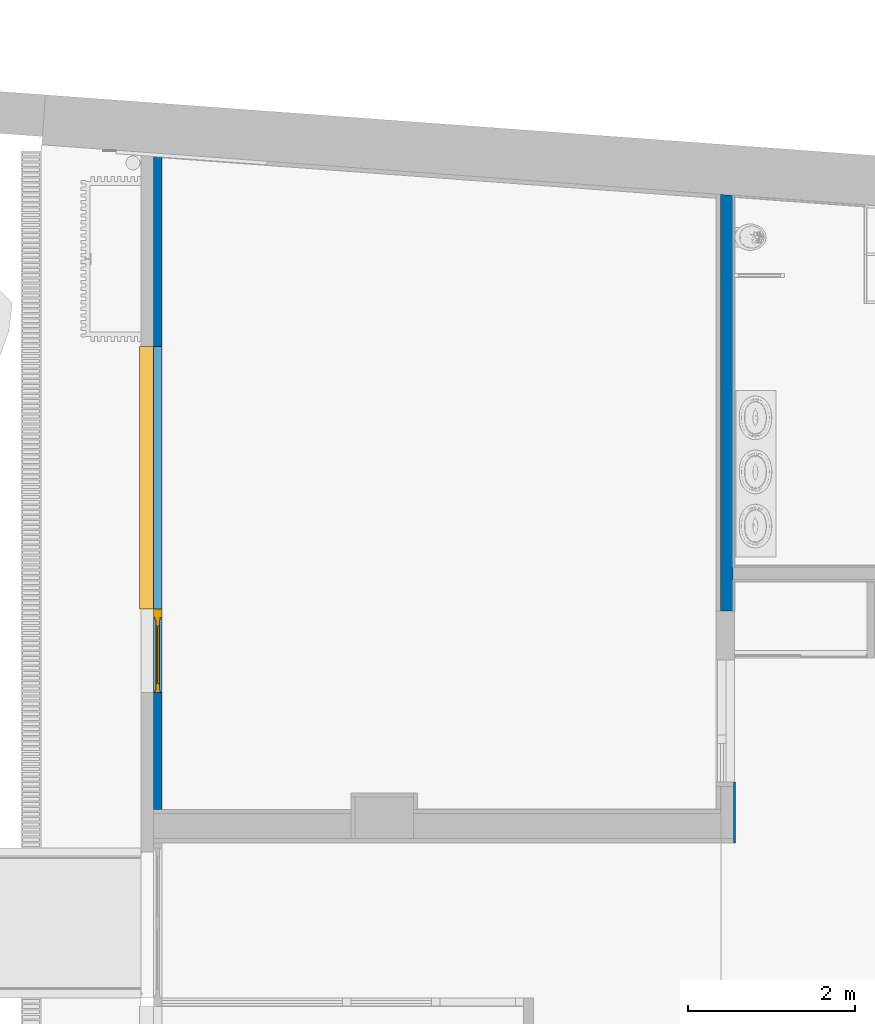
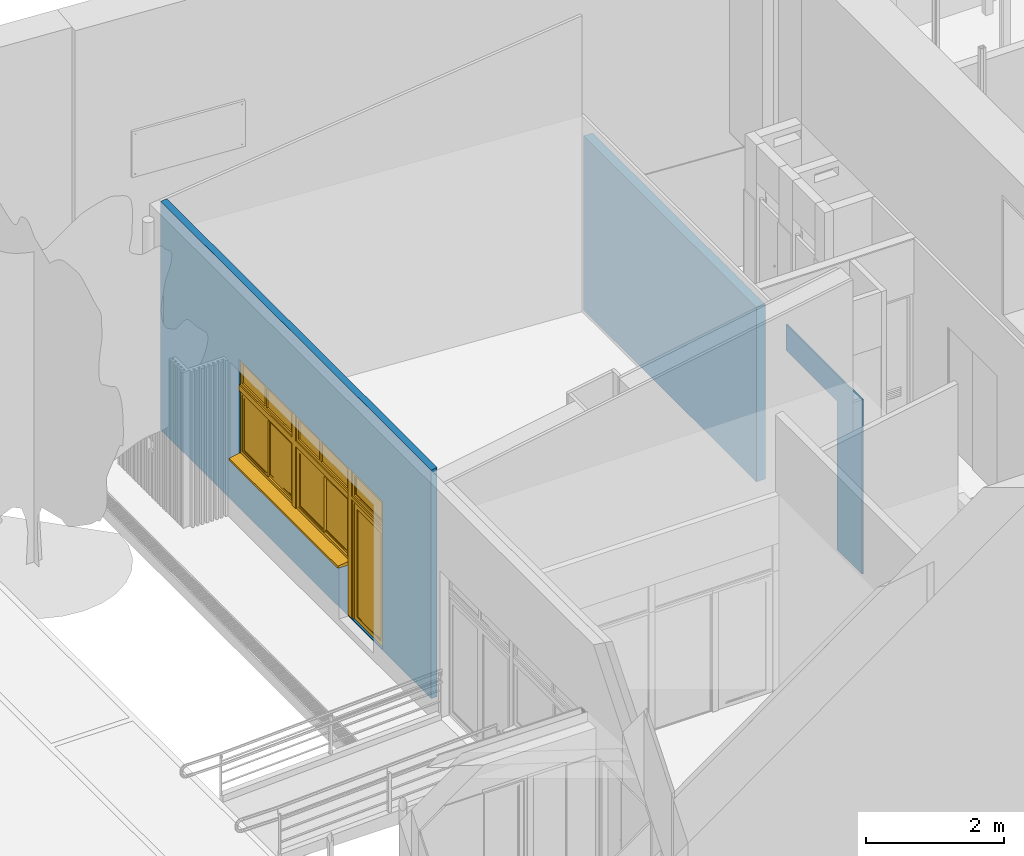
# One storey, part 37 of 75: 3 walls, 1 door, 1 window, 3 openings.
"""IFC2X3 building model written with IfcOpenShell, lengths in metres."""

from ifc_helpers import new_model, entity, si_unit, converted_unit, derived_unit, direction, frame, frame_2d, origin, origin_2d_with_axis, place, context, subcontext, project, spatial, polyline, circle_curve, parameter, trimmed, segment, composite_curve, rectangle, outline, extrude, clip, bounded_halfspace, source, transform, mapped, material, material_list, layer, layer_set, layer_usage, type_object, type_shapes, element, fill, save


model = new_model("IFC2X3")

# Units and contexts
model_context = context("Model", 3, precision=1e-05, world=origin(), true_north=direction((6.12303176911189e-17, 1.0)))
body_context = subcontext(model_context, "Body", "Model", "MODEL_VIEW")
ifc_project = project(units=[si_unit("LENGTHUNIT", "METRE"), si_unit("AREAUNIT", "SQUARE_METRE"), si_unit("VOLUMEUNIT", "CUBIC_METRE"), converted_unit("PLANEANGLEUNIT", "DEGREE", entity("IfcRatioMeasure", 0.0174532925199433), si_unit("PLANEANGLEUNIT", "RADIAN"), dimensions=[0, 0, 0, 0, 0, 0, 0]), si_unit("MASSUNIT", "GRAM", prefix="KILO"), derived_unit("MASSDENSITYUNIT", [(si_unit("MASSUNIT", "GRAM", prefix="KILO"), 1), (si_unit("LENGTHUNIT", "METRE"), -3)]), derived_unit("MOMENTOFINERTIAUNIT", [(si_unit("LENGTHUNIT", "METRE"), 4)]), si_unit("TIMEUNIT", "SECOND"), si_unit("FREQUENCYUNIT", "HERTZ"), si_unit("THERMODYNAMICTEMPERATUREUNIT", "DEGREE_CELSIUS"), derived_unit("THERMALTRANSMITTANCEUNIT", [(si_unit("MASSUNIT", "GRAM", prefix="KILO"), 1), (si_unit("THERMODYNAMICTEMPERATUREUNIT", "KELVIN"), -1), (si_unit("TIMEUNIT", "SECOND"), -3)]), derived_unit("VOLUMETRICFLOWRATEUNIT", [(si_unit("LENGTHUNIT", "METRE"), 3), (si_unit("TIMEUNIT", "SECOND"), -1)]), si_unit("ELECTRICCURRENTUNIT", "AMPERE"), si_unit("ELECTRICVOLTAGEUNIT", "VOLT"), si_unit("POWERUNIT", "WATT"), si_unit("FORCEUNIT", "NEWTON", prefix="KILO"), si_unit("ILLUMINANCEUNIT", "LUX"), si_unit("LUMINOUSFLUXUNIT", "LUMEN"), si_unit("LUMINOUSINTENSITYUNIT", "CANDELA"), derived_unit("USERDEFINED", [(si_unit("MASSUNIT", "GRAM", prefix="KILO"), -1), (si_unit("LENGTHUNIT", "METRE"), -2), (si_unit("TIMEUNIT", "SECOND"), 3), (si_unit("LUMINOUSFLUXUNIT", "LUMEN"), 1)]), derived_unit("LINEARVELOCITYUNIT", [(si_unit("LENGTHUNIT", "METRE"), 1), (si_unit("TIMEUNIT", "SECOND"), -1)]), si_unit("PRESSUREUNIT", "PASCAL"), derived_unit("USERDEFINED", [(si_unit("LENGTHUNIT", "METRE"), -2), (si_unit("MASSUNIT", "GRAM", prefix="KILO"), 1), (si_unit("TIMEUNIT", "SECOND"), -2)]), derived_unit("LINEARFORCEUNIT", [(si_unit("MASSUNIT", "GRAM", prefix="KILO"), 1), (si_unit("LENGTHUNIT", "METRE"), 1), (si_unit("TIMEUNIT", "SECOND"), -2), (si_unit("LENGTHUNIT", "METRE"), -1)]), derived_unit("PLANARFORCEUNIT", [(si_unit("MASSUNIT", "GRAM", prefix="KILO"), 1), (si_unit("LENGTHUNIT", "METRE"), 1), (si_unit("TIMEUNIT", "SECOND"), -2), (si_unit("LENGTHUNIT", "METRE"), -2)])], contexts=[model_context])

# Site, building, storey
site_placement = place(None, origin())
site = spatial("IfcSite", under=ifc_project, at=site_placement, Name="Superficie", CompositionType="ELEMENT")
building_placement = place(site_placement, origin())
building = spatial("IfcBuilding", under=site, at=building_placement, Name="Telegestiones", CompositionType="ELEMENT")
storey_placement = place(building_placement, origin())
storey = spatial("IfcBuildingStorey", under=building, at=storey_placement, Name="Nivel 0_NPT", CompositionType="ELEMENT", Elevation=0.0)

# Wall
ifc_material_1 = material(Name="Muro por defecto")
ifc_layer_1 = layer(ifc_material_1, 0.15)
ifc_layer_set_1 = layer_set([ifc_layer_1], Name="Muro básico:ARQ-MU-IN-15-Gen")
ifc_layer_usage_1 = layer_usage(ifc_layer_set_1, "AXIS2", "POSITIVE", -0.075)
wall_type_1 = type_object("IfcWallType", Name="Muro básico:ARQ-MU-IN-15-Gen", PredefinedType="STANDARD", material=ifc_layer_set_1)
wall_1_placement = place(storey_placement, frame((2.54240672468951, 4.93458449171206, -0.0199999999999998), z_axis=(0.0, 0.0, 1.0), x_axis=(0.0, 1.0, 0.0)))
element("IfcWallStandardCase", 1, at=wall_1_placement, inside=storey, type_object=wall_type_1, material=ifc_layer_usage_1, Name="Muro básico:ARQ-MU-IN-15-Gen", ObjectType="Muro básico:ARQ-MU-IN-15-Gen", context=body_context, shape_type="SweptSolid", body=[
    extrude(outline(polyline([(4.98898183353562, -0.0750000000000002), (4.9999626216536, 0.0749999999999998), (0.0, 0.0749999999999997), (0.0, -0.0750000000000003), (4.98898183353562, -0.0750000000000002)])), origin(), (0.0, 0.0, 1.0), 3.08),
])

# Wall, openings, window, door
ifc_material_2 = material(Name="Placa yeso entera")
ifc_layer_2 = layer(ifc_material_2, 0.015)
ifc_layer_3 = layer(ifc_material_2, 0.015)
ifc_material_3 = material(Name="Estructura de Hierro Galvanizado")
ifc_layer_4 = layer(ifc_material_3, 0.07)
ifc_layer_set_2 = layer_set([ifc_layer_2, ifc_layer_3, ifc_layer_4], Name="Muro básico:ARQ-RE-IN-10-Ye-M6")
ifc_layer_usage_2 = layer_usage(ifc_layer_set_2, "AXIS2", "POSITIVE", -0.05)
wall_type_2 = type_object("IfcWallType", Name="Muro básico:ARQ-RE-IN-10-Ye-M6", PredefinedType="STANDARD", material=ifc_layer_set_2)
wall_2_placement = place(storey_placement, frame((-4.28518737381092, 2.55458449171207, -0.0199999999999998), z_axis=(0.0, 0.0, 1.0), x_axis=(0.0, 1.0, 0.0)))
wall_2 = element("IfcWallStandardCase", 2, at=wall_2_placement, inside=storey, type_object=wall_type_2, material=ifc_layer_usage_2, Name="Muro básico:ARQ-RE-IN-10-Ye-M6", ObjectType="Muro básico:ARQ-RE-IN-10-Ye-M6", context=body_context, shape_type="Clipping", body=[
    clip(extrude(outline(polyline([(0.0, -0.05), (7.82049392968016, -0.0500000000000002), (7.82781445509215, 0.0500000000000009), (0.0, 0.05), (0.0, -0.05)])), origin(), (0.0, 0.0, 1.0), 4.049), bounded_halfspace(frame((0.0, -0.0500000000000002, 4.049), z_axis=(0.0, 0.177152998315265, 0.984183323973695), x_axis=(-1.0, 0.0, 0.0)), False, frame((0.0, -0.0500000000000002, 4.049)), polyline([(0.0, 0.0), (7.82049392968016, 0.0), (7.82781445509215, 0.100000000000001), (0.0, 0.1), (0.0, 0.0)]))),
])
opening_1_placement = place(wall_2_placement, frame((2.40537892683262, -0.0500000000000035, 0.899999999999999)))
opening_1 = element("IfcOpeningElement", 3, at=opening_1_placement, cuts=wall_2, Name="ARQ-VE-EX-315x155-Al-A1:ARQ-VE-EX-315x165-Al-A1:1", ObjectType="Opening", context=body_context, shape_type="SweptSolid", body=[
    extrude(rectangle(XDim=1.72, YDim=3.15, at=frame_2d((0.86, 1.575), x_axis=(1.0, 0.0))), frame((0.0, 0.0, 0.0), z_axis=(0.0, 1.0, 0.0), x_axis=(0.0, 0.0, 1.0)), (0.0, 0.0, 1.0), 0.1),
])
opening_2_placement = place(wall_2_placement, frame((2.40537879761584, 0.0499999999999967, 0.0199999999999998)))
opening_2 = element("IfcOpeningElement", 4, at=opening_2_placement, cuts=wall_2, Name="ARQ-PU-EX-80X260-Alu-A2:ARQ-PU-EX-80X260-Alu-A2:1", ObjectType="Opening", context=body_context, shape_type="SweptSolid", body=[
    extrude(rectangle(XDim=2.59999999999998, YDim=0.999999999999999, at=frame_2d((1.29999999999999, 0.5), x_axis=(1.0, 0.0))), frame((0.0, 0.0, 0.0), z_axis=(0.0, -1.0, 0.0), x_axis=(0.0, 0.0, 1.0)), (0.0, 0.0, 1.0), 0.1),
])
ifc_material_4 = material(Name="Vidrio")
ifc_material_5 = material(Name="Aluminio")
ifc_material_6 = material(Name="Hormigón, prefabricado")
ifc_material_list_1 = material_list([ifc_material_4, ifc_material_4, ifc_material_4, ifc_material_4, ifc_material_5, ifc_material_5, ifc_material_5, ifc_material_5, ifc_material_5, ifc_material_5, ifc_material_5, ifc_material_5, ifc_material_5, ifc_material_6, ifc_material_4, ifc_material_4, ifc_material_4, ifc_material_4, ifc_material_5, ifc_material_5, ifc_material_5, ifc_material_5, ifc_material_5, ifc_material_5, ifc_material_5, ifc_material_5, ifc_material_5, ifc_material_5, ifc_material_5, ifc_material_5])
ifc_material_list_2 = material_list([ifc_material_4, ifc_material_4, ifc_material_4, ifc_material_4, ifc_material_5, ifc_material_5, ifc_material_5, ifc_material_5, ifc_material_5, ifc_material_5, ifc_material_5, ifc_material_5, ifc_material_5, ifc_material_6, ifc_material_4, ifc_material_4, ifc_material_4, ifc_material_4, ifc_material_5, ifc_material_5, ifc_material_5, ifc_material_5, ifc_material_5, ifc_material_5, ifc_material_5, ifc_material_5, ifc_material_5, ifc_material_5, ifc_material_5, ifc_material_5])
window_style = type_object("IfcWindowStyle", Name="ARQ-VE-EX-315x155-Al-A1:ARQ-VE-EX-315x165-Al-A1", ConstructionType="NOTDEFINED", OperationType="NOTDEFINED", ParameterTakesPrecedence=False, Sizeable=False, material=ifc_material_list_2)
shared_shape_1 = source(origin(), body_context, "Body", "SweptSolid", [
    extrude(rectangle(XDim=0.01, YDim=0.7425, at=origin_2d_with_axis()), frame((0.431250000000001, 0.05, 1.33000000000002), z_axis=(0.0, 0.0, 1.0), x_axis=(0.0, 1.0, 0.0)), (0.0, 0.0, 1.0), 0.329999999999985),
    extrude(rectangle(XDim=0.01, YDim=0.5925, at=origin_2d_with_axis()), frame((1.16875, 0.05, 1.33000000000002), z_axis=(0.0, 0.0, 1.0), x_axis=(0.0, 1.0, 0.0)), (0.0, 0.0, 1.0), 0.329999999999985),
    extrude(rectangle(XDim=0.01, YDim=0.642500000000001, at=origin_2d_with_axis()), frame((2.76875, 0.05, 1.33000000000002), z_axis=(0.0, 0.0, 1.0), x_axis=(0.0, 1.0, 0.0)), (0.0, 0.0, 1.0), 0.329999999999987),
    extrude(rectangle(XDim=0.01, YDim=0.6925, at=frame_2d((0.0, 8.32667268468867e-17), x_axis=(1.0, 0.0))), frame((2.03125, 0.05, 1.33000000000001), z_axis=(0.0, 0.0, 1.0), x_axis=(0.0, 1.0, 0.0)), (0.0, 0.0, 1.0), 0.329999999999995),
    extrude(outline(polyline([(-0.174999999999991, -0.38125), (0.174999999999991, -0.38125), (0.174999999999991, 0.38125), (-0.174999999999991, 0.38125), (-0.174999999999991, -0.38125)]), holes=[polyline([(-0.164999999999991, -0.37125), (-0.164999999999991, 0.37125), (0.164999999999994, 0.37125), (0.164999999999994, -0.37125), (-0.164999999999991, -0.37125)])]), frame((0.431250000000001, 0.045, 1.49500000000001), z_axis=(0.0, 1.0, 0.0), x_axis=(0.0, 0.0, -1.0)), (0.0, 0.0, 1.0), 0.01),
    extrude(outline(polyline([(-0.30625, -0.174999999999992), (0.30625, -0.174999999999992), (0.30625, 0.174999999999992), (-0.30625, 0.174999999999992), (-0.30625, -0.174999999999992)]), holes=[polyline([(-0.29625, 0.164999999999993), (0.29625, 0.164999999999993), (0.29625, -0.164999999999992), (-0.29625, -0.164999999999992), (-0.29625, 0.164999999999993)])]), frame((1.16875, 0.045, 1.49500000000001), z_axis=(0.0, 1.0, 0.0), x_axis=(-1.0, 0.0, 0.0)), (0.0, 0.0, 1.0), 0.01),
    extrude(outline(polyline([(-0.35625, -0.174999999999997), (0.35625, -0.174999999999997), (0.35625, 0.174999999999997), (-0.35625, 0.174999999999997), (-0.35625, -0.174999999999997)]), holes=[polyline([(-0.34625, 0.164999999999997), (0.34625, 0.164999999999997), (0.34625, -0.164999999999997), (-0.34625, -0.164999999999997), (-0.34625, 0.164999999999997)])]), frame((2.03125, 0.045, 1.49500000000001), z_axis=(0.0, 1.0, 0.0), x_axis=(-1.0, 0.0, 0.0)), (0.0, 0.0, 1.0), 0.01),
    extrude(outline(polyline([(-0.174999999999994, -0.33125), (0.174999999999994, -0.33125), (0.174999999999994, 0.33125), (-0.174999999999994, 0.33125), (-0.174999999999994, -0.33125)]), holes=[polyline([(-0.164999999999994, -0.321250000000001), (-0.164999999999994, 0.32125), (0.164999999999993, 0.32125), (0.164999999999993, -0.321250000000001), (-0.164999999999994, -0.321250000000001)])]), frame((2.76875, 0.045, 1.49500000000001), z_axis=(0.0, 1.0, 0.0), x_axis=(0.0, 0.0, -1.0)), (0.0, 0.0, 1.0), 0.01),
    extrude(outline(polyline([(-0.7625, -0.224999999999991), (0.7625, -0.224999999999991), (0.7625, 0.224999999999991), (-0.7625, 0.224999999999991), (-0.7625, -0.224999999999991)]), holes=[polyline([(-0.0499999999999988, -0.174999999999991), (-0.7125, -0.174999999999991), (-0.7125, 0.174999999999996), (-0.0499999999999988, 0.174999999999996), (-0.0499999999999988, -0.174999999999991)]), polyline([(0.0, 0.174999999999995), (0.712500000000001, 0.174999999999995), (0.712500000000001, -0.174999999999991), (0.0, -0.174999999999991), (0.0, 0.174999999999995)])]), frame((2.3875, 0.02, 1.49500000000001), z_axis=(0.0, 1.0, 0.0), x_axis=(-1.0, 0.0, 0.0)), (0.0, 0.0, 1.0), 0.06),
    extrude(outline(polyline([(-0.550000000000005, -0.7625), (0.550000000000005, -0.7625), (0.550000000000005, 0.7625), (-0.550000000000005, 0.7625), (-0.550000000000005, -0.7625)]), holes=[polyline([(0.500000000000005, -0.7125), (-0.500000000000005, -0.7125), (-0.500000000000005, 0.712500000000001), (0.500000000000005, 0.712500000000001), (0.500000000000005, -0.7125)])]), frame((2.3875, 0.02, 0.620000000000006), z_axis=(0.0, 1.0, 0.0), x_axis=(0.0, 0.0, -1.0)), (0.0, 0.0, 1.0), 0.06),
    extrude(outline(polyline([(-0.550000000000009, -0.7625), (0.550000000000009, -0.7625), (0.550000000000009, 0.7625), (-0.550000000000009, 0.7625), (-0.550000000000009, -0.7625)]), holes=[polyline([(0.500000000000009, 0.7125), (0.500000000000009, -0.7125), (-0.500000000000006, -0.7125), (-0.500000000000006, 0.7125), (0.500000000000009, 0.7125)])]), frame((0.762500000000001, 0.02, 0.62000000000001), z_axis=(0.0, 1.0, 0.0), x_axis=(0.0, 0.0, -1.0)), (0.0, 0.0, 1.0), 0.06),
    extrude(outline(polyline([(-0.224999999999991, -0.7625), (0.224999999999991, -0.7625), (0.22499999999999, 0.7625), (-0.224999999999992, 0.7625), (-0.224999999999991, -0.7625)]), holes=[polyline([(0.174999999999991, -0.0999999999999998), (0.174999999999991, -0.712499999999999), (-0.174999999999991, -0.7125), (-0.174999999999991, -0.1), (0.174999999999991, -0.0999999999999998)]), polyline([(-0.174999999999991, -0.0500000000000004), (-0.174999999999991, 0.7125), (0.174999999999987, 0.7125), (0.174999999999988, -0.0500000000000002), (-0.174999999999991, -0.0500000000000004)])]), frame((0.762500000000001, 0.02, 1.49500000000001), z_axis=(0.0, 1.0, 0.0), x_axis=(0.0, 0.0, -1.0)), (0.0, 0.0, 1.0), 0.06),
    extrude(rectangle(XDim=0.1, YDim=0.1, at=origin_2d_with_axis()), frame((1.575, 0.05, 0.0700000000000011), z_axis=(0.0, 0.0, 1.0), x_axis=(0.0, 1.0, 0.0)), (0.0, 0.0, 1.0), 1.65),
    extrude(outline(composite_curve([segment(polyline([(0.105944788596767, -0.0448571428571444), (0.155944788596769, -0.0448571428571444)]), True, "CONTINUOUS"), segment(polyline([(0.155944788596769, -0.0448571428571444), (0.155944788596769, 0.0251428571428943)]), True, "CONTINUOUS"), segment(polyline([(0.155944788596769, 0.0251428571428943), (-0.0848619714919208, 0.0251428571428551)]), True, "CONTINUOUS"), segment(trimmed(circle_curve(frame_2d((-0.0948619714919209, 0.0251428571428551), x_axis=(1.0, 0.0)), 0.01), [parameter(180.000000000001)], [parameter(7.63333123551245e-13)], True, "PARAMETER"), False, "CONTINUOUS"), segment(polyline([(-0.104861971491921, 0.0251428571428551), (-0.114055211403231, 0.0251428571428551)]), True, "CONTINUOUS"), segment(polyline([(-0.114055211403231, 0.0251428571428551), (-0.114055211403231, -0.0108571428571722)]), True, "CONTINUOUS"), segment(polyline([(-0.114055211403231, -0.0108571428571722), (0.105944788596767, -0.0448571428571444)]), True, "CONTINUOUS")], self_intersect=False)), frame((0.0, 0.155944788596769, 0.0251428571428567), z_axis=(1.0, 0.0, 0.0), x_axis=(0.0, -1.0, 0.0)), (0.0, 0.0, 1.0), 3.15),
    extrude(rectangle(XDim=0.01, YDim=0.657500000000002, at=origin_2d_with_axis()), frame((2.73125, 0.06, 0.159999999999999), z_axis=(0.0, 0.0, 1.0), x_axis=(0.0, 1.0, 0.0)), (0.0, 0.0, 1.0), 0.92000000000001),
    extrude(rectangle(XDim=0.01, YDim=0.657500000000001, at=origin_2d_with_axis()), frame((1.10625, 0.06, 0.159999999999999), z_axis=(0.0, 0.0, 1.0), x_axis=(0.0, 1.0, 0.0)), (0.0, 0.0, 1.0), 0.920000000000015),
    extrude(rectangle(XDim=0.01, YDim=0.6375, at=origin_2d_with_axis()), frame((2.03375, 0.035, 0.160000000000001), z_axis=(0.0, 0.0, 1.0), x_axis=(0.0, 1.0, 0.0)), (0.0, 0.0, 1.0), 0.920000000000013),
    extrude(rectangle(XDim=0.01, YDim=0.6375, at=frame_2d((0.0, 8.32667268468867e-17), x_axis=(1.0, 0.0))), frame((0.40875, 0.035, 0.160000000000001), z_axis=(0.0, 0.0, 1.0), x_axis=(0.0, 1.0, 0.0)), (0.0, 0.0, 1.0), 0.920000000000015),
    extrude(outline(polyline([(-0.470000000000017, -0.338750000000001), (0.470000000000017, -0.338750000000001), (0.470000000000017, 0.338750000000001), (-0.470000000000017, 0.338750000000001), (-0.470000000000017, -0.338750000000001)]), holes=[polyline([(0.460000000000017, -0.328750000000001), (-0.460000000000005, -0.328750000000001), (-0.460000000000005, 0.328750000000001), (0.460000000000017, 0.328750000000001), (0.460000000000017, -0.328750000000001)])]), frame((2.73125, 0.05, 0.620000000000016), z_axis=(0.0, 1.0, 0.0), x_axis=(0.0, 0.0, -1.0)), (0.0, 0.0, 1.0), 0.02),
    extrude(outline(polyline([(-0.47000000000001, -0.338750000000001), (0.47000000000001, -0.338750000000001), (0.47000000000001, 0.338750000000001), (-0.47000000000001, 0.338750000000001), (-0.47000000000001, -0.338750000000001)]), holes=[polyline([(-0.460000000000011, -0.328750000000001), (-0.460000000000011, 0.328750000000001), (0.46000000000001, 0.328750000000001), (0.46000000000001, -0.328750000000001), (-0.460000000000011, -0.328750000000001)])]), frame((1.10625, 0.05, 0.620000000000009), z_axis=(0.0, 1.0, 0.0), x_axis=(0.0, 0.0, -1.0)), (0.0, 0.0, 1.0), 0.02),
    extrude(outline(polyline([(-0.32875, -0.470000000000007), (0.32875, -0.470000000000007), (0.32875, 0.470000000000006), (-0.32875, 0.470000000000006), (-0.32875, -0.470000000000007)]), holes=[polyline([(0.31875, 0.460000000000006), (0.31875, -0.460000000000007), (-0.31875, -0.460000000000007), (-0.31875, 0.460000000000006), (0.31875, 0.460000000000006)])]), frame((2.03375, 0.025, 0.620000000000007), z_axis=(0.0, 1.0, 0.0), x_axis=(1.0, 0.0, 0.0)), (0.0, 0.0, 1.0), 0.02),
    extrude(outline(polyline([(-0.470000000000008, -0.32875), (0.470000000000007, -0.32875), (0.470000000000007, 0.32875), (-0.470000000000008, 0.32875), (-0.470000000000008, -0.32875)]), holes=[polyline([(-0.460000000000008, -0.31875), (-0.460000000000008, 0.31875), (0.460000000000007, 0.31875), (0.460000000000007, -0.31875), (-0.460000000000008, -0.31875)])]), frame((0.40875, 0.025, 0.620000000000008), z_axis=(0.0, 1.0, 0.0), x_axis=(0.0, 0.0, -1.0)), (0.0, 0.0, 1.0), 0.02),
    extrude(outline(polyline([(-0.368750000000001, -0.500000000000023), (0.368750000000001, -0.500000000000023), (0.368750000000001, 0.500000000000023), (-0.368750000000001, 0.500000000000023), (-0.368750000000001, -0.500000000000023)]), holes=[polyline([(-0.338750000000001, -0.470000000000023), (-0.338750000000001, 0.470000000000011), (0.338750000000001, 0.470000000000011), (0.338750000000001, -0.470000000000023), (-0.338750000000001, -0.470000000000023)])]), frame((2.73125, 0.05, 0.620000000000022), z_axis=(0.0, 1.0, 0.0), x_axis=(-1.0, 0.0, 0.0)), (0.0, 0.0, 1.0), 0.025),
    extrude(outline(polyline([(-0.500000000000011, -0.368750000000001), (0.500000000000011, -0.368750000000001), (0.500000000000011, 0.368750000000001), (-0.500000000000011, 0.368750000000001), (-0.500000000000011, -0.368750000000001)]), holes=[polyline([(0.470000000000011, -0.338750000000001), (-0.470000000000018, -0.338750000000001), (-0.470000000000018, 0.33875), (0.470000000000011, 0.33875), (0.470000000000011, -0.338750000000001)])]), frame((1.10625, 0.05, 0.62000000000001), z_axis=(0.0, 1.0, 0.0), x_axis=(0.0, 0.0, -1.0)), (0.0, 0.0, 1.0), 0.025),
    extrude(outline(polyline([(-0.35875, -0.500000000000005), (0.35875, -0.500000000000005), (0.35875, 0.500000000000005), (-0.35875, 0.500000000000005), (-0.35875, -0.500000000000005)]), holes=[polyline([(-0.32875, -0.470000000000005), (-0.32875, 0.470000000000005), (0.32875, 0.470000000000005), (0.32875, -0.470000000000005), (-0.32875, -0.470000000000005)])]), frame((2.03375, 0.025, 0.620000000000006), z_axis=(0.0, 1.0, 0.0), x_axis=(-1.0, 0.0, 0.0)), (0.0, 0.0, 1.0), 0.025),
    extrude(outline(polyline([(-0.500000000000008, -0.35875), (0.500000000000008, -0.35875), (0.500000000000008, 0.35875), (-0.500000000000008, 0.35875), (-0.500000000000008, -0.35875)]), holes=[polyline([(0.470000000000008, -0.32875), (-0.470000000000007, -0.32875), (-0.470000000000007, 0.32875), (0.470000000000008, 0.32875), (0.470000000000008, -0.32875)])]), frame((0.40875, 0.025, 0.620000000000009), z_axis=(0.0, 1.0, 0.0), x_axis=(0.0, 0.0, -1.0)), (0.0, 0.0, 1.0), 0.025),
    extrude(rectangle(XDim=0.1, YDim=1.525, at=origin_2d_with_axis()), frame((0.762500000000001, 0.05, 1.17000000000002), z_axis=(0.0, 0.0, 1.0), x_axis=(0.0, 1.0, 0.0)), (0.0, 0.0, 1.0), 0.05),
    extrude(rectangle(XDim=0.1, YDim=1.525, at=origin_2d_with_axis()), frame((2.3875, 0.05, 1.17000000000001), z_axis=(0.0, 0.0, 1.0), x_axis=(0.0, 1.0, 0.0)), (0.0, 0.0, 1.0), 0.05),
    extrude(rectangle(XDim=0.1, YDim=1.525, at=origin_2d_with_axis()), frame((0.762500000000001, 0.05, 1.22000000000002), z_axis=(0.0, 0.0, 1.0), x_axis=(0.0, 1.0, 0.0)), (0.0, 0.0, 1.0), 0.0499999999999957),
    extrude(rectangle(XDim=0.1, YDim=1.525, at=origin_2d_with_axis()), frame((2.3875, 0.05, 1.22000000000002), z_axis=(0.0, 0.0, 1.0), x_axis=(0.0, 1.0, 0.0)), (0.0, 0.0, 1.0), 0.05),
])
type_shapes(window_style, [shared_shape_1])
window_placement = place(opening_1_placement, origin())
window = element("IfcWindow", 5, at=window_placement, inside=storey, type_object=window_style, material=ifc_material_list_1, Name="ARQ-VE-EX-315x155-Al-A1:ARQ-VE-EX-315x165-Al-A1", ObjectType="ARQ-VE-EX-315x155-Al-A1:ARQ-VE-EX-315x165-Al-A1", OverallHeight=1.72, OverallWidth=3.15, context=body_context, shape_type="MappedRepresentation", body=[
    mapped(shared_shape_1, transform((0.0, 0.0, 0.0), scale=1.0)),
])
fill(opening_1, window)
ifc_material_7 = material(Name="<Unnamed>")
ifc_material_list_3 = material_list([ifc_material_5, ifc_material_5, ifc_material_4, ifc_material_4, ifc_material_5, ifc_material_5, ifc_material_7, ifc_material_5, ifc_material_5])
ifc_material_list_4 = material_list([ifc_material_5, ifc_material_5, ifc_material_4, ifc_material_4, ifc_material_5, ifc_material_5, ifc_material_7, ifc_material_5, ifc_material_5])
door_style = type_object("IfcDoorStyle", Name="ARQ-PU-EX-80X260-Alu-A2:ARQ-PU-EX-80X260-Alu-A2", ConstructionType="NOTDEFINED", OperationType="NOTDEFINED", ParameterTakesPrecedence=False, Sizeable=False, material=ifc_material_list_4)
shared_shape_2 = source(origin(), body_context, "Body", "SweptSolid", [
    extrude(outline(polyline([(-0.42, -1.02500000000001), (0.42, -1.02500000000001), (0.42, 1.02500000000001), (-0.42, 1.02500000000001), (-0.42, -1.02500000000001)]), holes=[polyline([(-0.35, -0.955000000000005), (-0.35, 0.955000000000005), (0.35, 0.955000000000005), (0.35, -0.955000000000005), (-0.35, -0.955000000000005)])]), frame((0.550000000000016, 0.07, 1.02500000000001), z_axis=(0.0, -1.0, 0.0), x_axis=(-1.0, 0.0, 0.0)), (0.0, 0.0, 1.0), 0.04),
    extrude(rectangle(XDim=0.9, YDim=0.1, at=origin_2d_with_axis()), frame((0.550000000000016, 0.05, 2.10000000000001)), (0.0, 0.0, 1.0), 0.05),
    extrude(rectangle(XDim=0.779999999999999, YDim=0.01, at=origin_2d_with_axis()), frame((0.550000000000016, 0.05, 2.21000000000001)), (0.0, 0.0, 1.0), 0.329999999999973),
    extrude(rectangle(XDim=0.68, YDim=0.01, at=origin_2d_with_axis()), frame((0.550000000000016, 0.05, 0.0799999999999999)), (0.0, 0.0, 1.0), 1.89000000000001),
    extrude(outline(polyline([(-0.4, -0.174999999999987), (0.4, -0.174999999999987), (0.4, 0.174999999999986), (-0.4, 0.174999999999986), (-0.4, -0.174999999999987)]), holes=[polyline([(-0.39, -0.164999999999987), (-0.39, 0.164999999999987), (0.389999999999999, 0.164999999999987), (0.389999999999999, -0.164999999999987), (-0.39, -0.164999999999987)])]), frame((0.550000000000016, 0.06, 2.375), z_axis=(0.0, -1.0, 0.0), x_axis=(-1.0, 0.0, 0.0)), (0.0, 0.0, 1.0), 0.02),
    extrude(outline(polyline([(-0.35, -0.955000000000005), (0.35, -0.955000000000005), (0.35, 0.955000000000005), (-0.35, 0.955000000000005), (-0.35, -0.955000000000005)]), holes=[polyline([(-0.34, -0.945000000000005), (-0.34, 0.945000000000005), (0.34, 0.945000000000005), (0.34, -0.945000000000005), (-0.34, -0.945000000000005)])]), frame((0.550000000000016, 0.06, 1.02500000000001), z_axis=(0.0, -1.0, 0.0), x_axis=(-1.0, 0.0, 0.0)), (0.0, 0.0, 1.0), 0.02),
    extrude(rectangle(XDim=0.1, YDim=0.1, at=origin_2d_with_axis()), frame((0.0500000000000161, 0.05, 0.0)), (0.0, 0.0, 1.0), 2.59999999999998),
    extrude(outline(polyline([(-0.45, -1.06250000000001), (0.45, -1.06250000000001), (0.45, 1.03750000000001), (0.42, 1.03750000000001), (0.42, -1.01250000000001), (-0.42, -1.01250000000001), (-0.42, 1.03750000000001), (-0.45, 1.03750000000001), (-0.45, -1.06250000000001)])), frame((0.550000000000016, 0.08, 1.03750000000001), z_axis=(0.0, -1.0, 0.0), x_axis=(-1.0, 0.0, 0.0)), (0.0, 0.0, 1.0), 0.06),
    extrude(outline(polyline([(-0.45, -0.224999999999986), (0.45, -0.224999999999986), (0.45, 0.224999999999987), (-0.45, 0.224999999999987), (-0.45, -0.224999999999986)]), holes=[polyline([(-0.4, -0.174999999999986), (-0.4, 0.174999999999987), (0.4, 0.174999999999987), (0.4, -0.174999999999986), (-0.4, -0.174999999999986)])]), frame((0.550000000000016, 0.08, 2.375), z_axis=(0.0, -1.0, 0.0), x_axis=(-1.0, 0.0, 0.0)), (0.0, 0.0, 1.0), 0.06),
])
type_shapes(door_style, [shared_shape_2])
door_placement = place(opening_2_placement, frame((0.0, 0.0, 0.0), z_axis=(0.0, 0.0, 1.0), x_axis=(-1.0, 0.0, 0.0)))
door = element("IfcDoor", 6, at=door_placement, inside=storey, type_object=door_style, material=ifc_material_list_3, Name="ARQ-PU-EX-80X260-Alu-A2:ARQ-PU-EX-80X260-Alu-A2", ObjectType="ARQ-PU-EX-80X260-Alu-A2:ARQ-PU-EX-80X260-Alu-A2", OverallHeight=2.59999999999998, OverallWidth=1.0, context=body_context, shape_type="MappedRepresentation", body=[
    mapped(shared_shape_2, transform((0.0, 0.0, 0.0), scale=1.0)),
])
fill(opening_2, door)

# Wall, opening
ifc_layer_5 = layer(ifc_material_2, 0.012)
ifc_layer_6 = layer(ifc_material_3, 0.013)
ifc_layer_set_3 = layer_set([ifc_layer_5, ifc_layer_6], Name="Muro básico:ARQ-RE-IN-2-Ye-M4")
ifc_layer_usage_3 = layer_usage(ifc_layer_set_3, "AXIS2", "POSITIVE", -0.0125)
wall_type_3 = type_object("IfcWallType", Name="Muro básico:ARQ-RE-IN-2-Ye-M4", PredefinedType="STANDARD", material=ifc_layer_set_3)
wall_3_placement = place(storey_placement, frame((2.6373126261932, 2.15458449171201, -0.0199999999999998), z_axis=(0.0, 0.0, 1.0), x_axis=(0.0, 1.0, 0.0)))
wall_3 = element("IfcWallStandardCase", 7, at=wall_3_placement, inside=storey, type_object=wall_type_3, material=ifc_layer_usage_3, Name="Muro básico:ARQ-RE-IN-2-Ye-M4", ObjectType="Muro básico:ARQ-RE-IN-2-Ye-M4", context=body_context, shape_type="SweptSolid", body=[
    extrude(rectangle(XDim=2.19401916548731, YDim=0.0249999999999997, at=frame_2d((1.09700958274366, -1.51788304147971e-16), x_axis=(-1.0, 0.0))), origin(), (0.0, 0.0, 1.0), 3.08),
])
opening_3_placement = place(wall_3_placement, origin())
element("IfcOpeningElement", 8, at=opening_3_placement, cuts=wall_3, Name="Muro básico:ARQ-RE-IN-2-Ye-M4", ObjectType="Opening", context=body_context, shape_type="SweptSolid", body=[
    extrude(rectangle(XDim=2.62, YDim=1.46606759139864, at=frame_2d((1.0547118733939e-15, 1.11022302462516e-15), x_axis=(0.0, 1.0))), frame((1.46098536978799, 0.0124999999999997, 1.31), z_axis=(0.0, -1.0, 0.0), x_axis=(1.0, 0.0, 0.0)), (0.0, 0.0, 1.0), 0.025),
])

save(model, "model.ifc")
